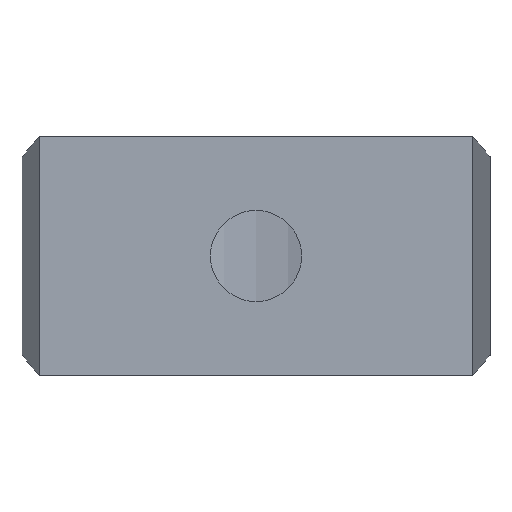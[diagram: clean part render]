
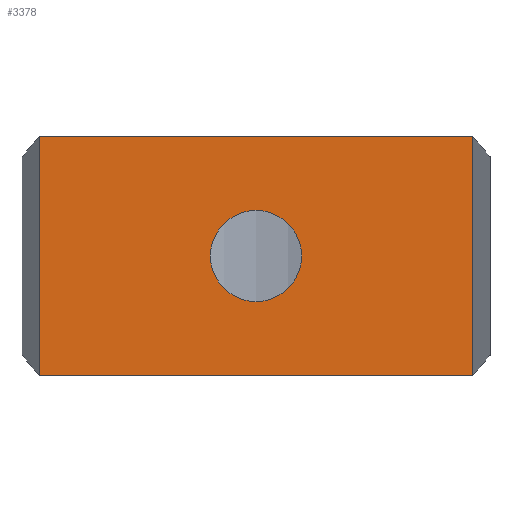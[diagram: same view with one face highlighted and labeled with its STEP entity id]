
A CAD part, front view. The second image highlights one B-rep face of the part: STEP entity #3378.
In plain terms, the highlighted planar face has unit normal (0, -1, 0).
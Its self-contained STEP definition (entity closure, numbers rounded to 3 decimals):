
#6 = EDGE_CURVE ( 'NONE', #795, #1854, #3122, .T. ) ;
#74 = EDGE_CURVE ( 'NONE', #485, #199, #1853, .T. ) ;
#159 = VECTOR ( 'NONE', #3638, 1000. ) ;
#160 = EDGE_CURVE ( 'NONE', #3366, #771, #2017, .T. ) ;
#178 = ORIENTED_EDGE ( 'NONE', *, *, #2095, .T. ) ;
#181 = DIRECTION ( 'NONE',  ( 0., 0., -1. ) ) ;
#199 = VERTEX_POINT ( 'NONE', #213 ) ;
#213 = CARTESIAN_POINT ( 'NONE',  ( 0., 0., 4. ) ) ;
#314 = DIRECTION ( 'NONE',  ( -1., 0., 0. ) ) ;
#388 = CARTESIAN_POINT ( 'NONE',  ( 0., 0., 10.5 ) ) ;
#485 = VERTEX_POINT ( 'NONE', #2539 ) ;
#552 = DIRECTION ( 'NONE',  ( -1., 0., 0. ) ) ;
#613 = ORIENTED_EDGE ( 'NONE', *, *, #160, .F. ) ;
#641 = EDGE_LOOP ( 'NONE', ( #178, #874 ) ) ;
#771 = VERTEX_POINT ( 'NONE', #3362 ) ;
#795 = VERTEX_POINT ( 'NONE', #3135 ) ;
#811 = CARTESIAN_POINT ( 'NONE',  ( 0., 0., -10.5 ) ) ;
#817 = CARTESIAN_POINT ( 'NONE',  ( -19., 0., 10.5 ) ) ;
#840 = DIRECTION ( 'NONE',  ( 1., 0., 0. ) ) ;
#862 = FACE_OUTER_BOUND ( 'NONE', #2290, .T. ) ;
#874 = ORIENTED_EDGE ( 'NONE', *, *, #74, .T. ) ;
#910 = VECTOR ( 'NONE', #314, 1000. ) ;
#971 = VECTOR ( 'NONE', #552, 1000. ) ;
#1068 = DIRECTION ( 'NONE',  ( 0., 1., 0. ) ) ;
#1157 = DIRECTION ( 'NONE',  ( 0., -1., 0. ) ) ;
#1175 = CARTESIAN_POINT ( 'NONE',  ( 0., 0., 0. ) ) ;
#1248 = ORIENTED_EDGE ( 'NONE', *, *, #6, .T. ) ;
#1638 = ORIENTED_EDGE ( 'NONE', *, *, #1896, .F. ) ;
#1654 = CARTESIAN_POINT ( 'NONE',  ( 0., 0., 0. ) ) ;
#1692 = FACE_BOUND ( 'NONE', #641, .T. ) ;
#1708 = CARTESIAN_POINT ( 'NONE',  ( 19., 0., -10.5 ) ) ;
#1729 = AXIS2_PLACEMENT_3D ( 'NONE', #1654, #1068, #2606 ) ;
#1751 = CARTESIAN_POINT ( 'NONE',  ( 0., 0., 10.5 ) ) ;
#1853 = CIRCLE ( 'NONE', #1729, 4. ) ;
#1854 = VERTEX_POINT ( 'NONE', #3381 ) ;
#1865 = CIRCLE ( 'NONE', #3547, 4. ) ;
#1896 = EDGE_CURVE ( 'NONE', #795, #3366, #3402, .T. ) ;
#1944 = LINE ( 'NONE', #817, #2510 ) ;
#2017 = LINE ( 'NONE', #811, #971 ) ;
#2095 = EDGE_CURVE ( 'NONE', #199, #485, #1865, .T. ) ;
#2290 = EDGE_LOOP ( 'NONE', ( #613, #1638, #1248, #2432 ) ) ;
#2415 = EDGE_CURVE ( 'NONE', #1854, #771, #1944, .T. ) ;
#2432 = ORIENTED_EDGE ( 'NONE', *, *, #2415, .T. ) ;
#2485 = AXIS2_PLACEMENT_3D ( 'NONE', #1751, #1157, #840 ) ;
#2510 = VECTOR ( 'NONE', #181, 1000. ) ;
#2539 = CARTESIAN_POINT ( 'NONE',  ( 0., 0., -4. ) ) ;
#2606 = DIRECTION ( 'NONE',  ( 0., 0., 1. ) ) ;
#2614 = DIRECTION ( 'NONE',  ( 0., 0., 1. ) ) ;
#3122 = LINE ( 'NONE', #388, #910 ) ;
#3135 = CARTESIAN_POINT ( 'NONE',  ( 19., 0., 10.5 ) ) ;
#3362 = CARTESIAN_POINT ( 'NONE',  ( -19., 0., -10.5 ) ) ;
#3366 = VERTEX_POINT ( 'NONE', #1708 ) ;
#3378 = ADVANCED_FACE ( 'NONE', ( #1692, #862 ), #3902, .T. ) ;
#3381 = CARTESIAN_POINT ( 'NONE',  ( -19., 0., 10.5 ) ) ;
#3402 = LINE ( 'NONE', #3427, #159 ) ;
#3427 = CARTESIAN_POINT ( 'NONE',  ( 19., 0., 10.5 ) ) ;
#3545 = DIRECTION ( 'NONE',  ( 0., 1., 0. ) ) ;
#3547 = AXIS2_PLACEMENT_3D ( 'NONE', #1175, #3545, #2614 ) ;
#3638 = DIRECTION ( 'NONE',  ( 0., 0., -1. ) ) ;
#3902 = PLANE ( 'NONE',  #2485 ) ;
